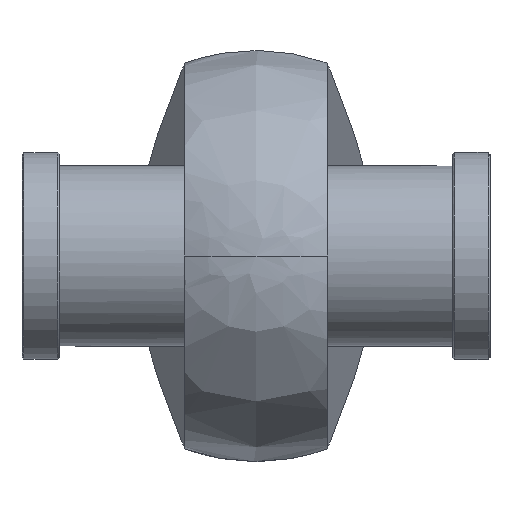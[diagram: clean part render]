
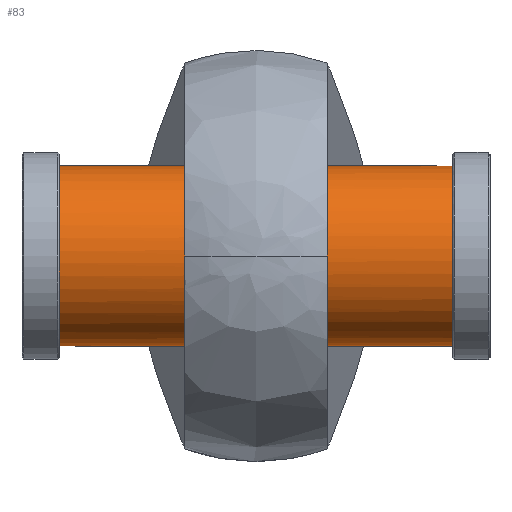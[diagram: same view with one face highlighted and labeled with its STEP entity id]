
A CAD part, left-side view. The second image highlights one B-rep face of the part: STEP entity #83.
In plain terms, the highlighted cylindrical face has radius 26.5 mm (diameter 53 mm), a full revolution.
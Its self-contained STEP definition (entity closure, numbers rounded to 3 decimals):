
#83=ADVANCED_FACE('',(#157),#1209,.T.);
#157=FACE_OUTER_BOUND('',#238,.T.);
#238=EDGE_LOOP('',(#506,#507,#508,#509));
#506=ORIENTED_EDGE('',*,*,#772,.T.);
#507=ORIENTED_EDGE('',*,*,#774,.T.);
#508=ORIENTED_EDGE('',*,*,#773,.T.);
#509=ORIENTED_EDGE('',*,*,#774,.F.);
#772=EDGE_CURVE('',#1124,#1124,#980,.T.);
#773=EDGE_CURVE('',#1125,#1125,#981,.T.);
#774=EDGE_CURVE('',#1124,#1125,#894,.T.);
#894=B_SPLINE_CURVE_WITH_KNOTS('',1,(#2243,#2244),.UNSPECIFIED.,.F.,.F.,
(2,2),(11.693,127.428),.UNSPECIFIED.);
#980=(
BOUNDED_CURVE()
B_SPLINE_CURVE(2,(#2225,#2226,#2227,#2228,#2229,#2230,#2231,#2232,#2233),
 .UNSPECIFIED.,.T.,.F.)
B_SPLINE_CURVE_WITH_KNOTS((3,2,2,2,3),(0.,41.626,83.252,
124.878,166.504),.UNSPECIFIED.)
CURVE()
GEOMETRIC_REPRESENTATION_ITEM()
RATIONAL_B_SPLINE_CURVE((1.,0.707,1.,0.707,1.,0.707,
1.,0.707,1.))
REPRESENTATION_ITEM('')
);
#981=(
BOUNDED_CURVE()
B_SPLINE_CURVE(2,(#2234,#2235,#2236,#2237,#2238,#2239,#2240,#2241,#2242),
 .UNSPECIFIED.,.T.,.F.)
B_SPLINE_CURVE_WITH_KNOTS((3,2,2,2,3),(0.,41.626,83.252,
124.878,166.504),.UNSPECIFIED.)
CURVE()
GEOMETRIC_REPRESENTATION_ITEM()
RATIONAL_B_SPLINE_CURVE((1.,0.707,1.,0.707,1.,0.707,
1.,0.707,1.))
REPRESENTATION_ITEM('')
);
#1124=VERTEX_POINT('',#2177);
#1125=VERTEX_POINT('',#2178);
#1209=CYLINDRICAL_SURFACE('',#1361,26.5);
#1361=AXIS2_PLACEMENT_3D('',#2167,#1407,$);
#1407=DIRECTION('',(0.,-1.,0.));
#2167=CARTESIAN_POINT('',(0.,0.,0.));
#2177=CARTESIAN_POINT('',(26.5,57.867,0.));
#2178=CARTESIAN_POINT('',(26.5,-57.867,0.));
#2225=CARTESIAN_POINT('',(26.5,57.867,0.));
#2226=CARTESIAN_POINT('',(26.5,57.867,26.5));
#2227=CARTESIAN_POINT('',(0.,57.867,26.5));
#2228=CARTESIAN_POINT('',(-26.5,57.867,26.5));
#2229=CARTESIAN_POINT('',(-26.5,57.867,0.));
#2230=CARTESIAN_POINT('',(-26.5,57.867,-26.5));
#2231=CARTESIAN_POINT('',(0.,57.867,-26.5));
#2232=CARTESIAN_POINT('',(26.5,57.867,-26.5));
#2233=CARTESIAN_POINT('',(26.5,57.867,0.));
#2234=CARTESIAN_POINT('',(26.5,-57.867,0.));
#2235=CARTESIAN_POINT('',(26.5,-57.867,-26.5));
#2236=CARTESIAN_POINT('',(0.,-57.867,-26.5));
#2237=CARTESIAN_POINT('',(-26.5,-57.867,-26.5));
#2238=CARTESIAN_POINT('',(-26.5,-57.867,0.));
#2239=CARTESIAN_POINT('',(-26.5,-57.867,26.5));
#2240=CARTESIAN_POINT('',(0.,-57.867,26.5));
#2241=CARTESIAN_POINT('',(26.5,-57.867,26.5));
#2242=CARTESIAN_POINT('',(26.5,-57.867,0.));
#2243=CARTESIAN_POINT('',(26.5,57.867,0.));
#2244=CARTESIAN_POINT('',(26.5,-57.867,0.));
